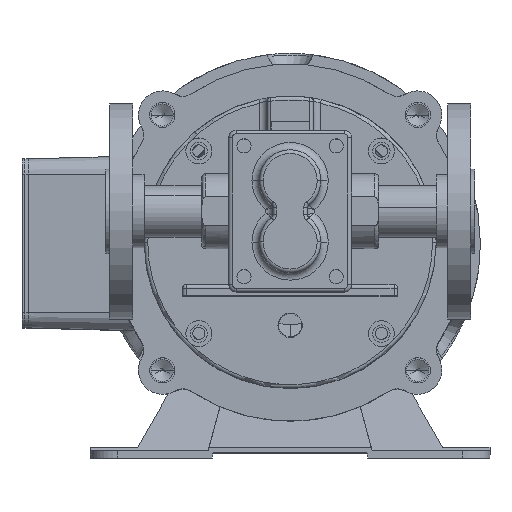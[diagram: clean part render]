
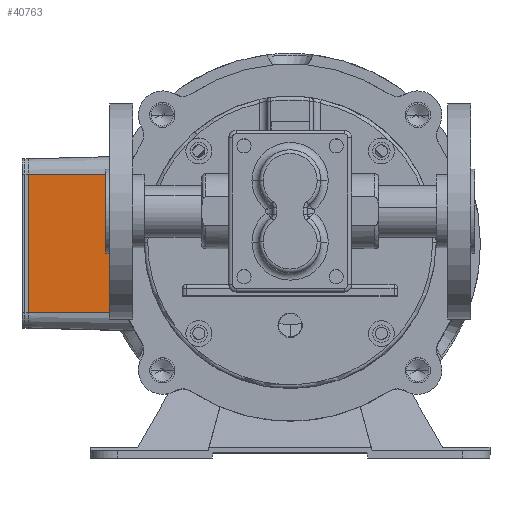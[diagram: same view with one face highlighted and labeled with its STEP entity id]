
A CAD part, top view. The second image highlights one B-rep face of the part: STEP entity #40763.
In plain terms, the highlighted planar face has unit normal (-0.026, 0, 1).
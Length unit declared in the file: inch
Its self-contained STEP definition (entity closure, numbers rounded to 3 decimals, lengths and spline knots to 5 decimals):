
#436 = ORIENTED_EDGE ( 'NONE', *, *, #43343, .T. ) ;
#1046 = VECTOR ( 'NONE', #5229, 39.37008 ) ;
#4844 = VERTEX_POINT ( 'NONE', #11791 ) ;
#5229 = DIRECTION ( 'NONE',  ( -1., 0., -0.026 ) ) ;
#6882 = CARTESIAN_POINT ( 'NONE',  ( -5.43364, -0.5928, -7.47377 ) ) ;
#7551 = AXIS2_PLACEMENT_3D ( 'NONE', #24490, #16123, #29229 ) ;
#8030 = ORIENTED_EDGE ( 'NONE', *, *, #44900, .T. ) ;
#8119 =( BOUNDED_CURVE ( )  B_SPLINE_CURVE ( 3, ( #48979, #53137, #15257, #35921 ),
 .UNSPECIFIED., .F., .T. ) 
 B_SPLINE_CURVE_WITH_KNOTS ( ( 4, 4 ),
 ( 0., 0.40776 ),
 .UNSPECIFIED. ) 
 CURVE ( )  GEOMETRIC_REPRESENTATION_ITEM ( )  RATIONAL_B_SPLINE_CURVE ( ( 1., 0.986, 0.986, 1. ) ) 
 REPRESENTATION_ITEM ( '' )  );
#9355 = CARTESIAN_POINT ( 'NONE',  ( -3.78838, -0.5928, -7.43069 ) ) ;
#9411 = LINE ( 'NONE', #26458, #1046 ) ;
#11143 = CARTESIAN_POINT ( 'NONE',  ( -5.43364, 1.6572, -7.47377 ) ) ;
#11791 = CARTESIAN_POINT ( 'NONE',  ( -3.78838, 1.6572, -7.43069 ) ) ;
#12351 = VECTOR ( 'NONE', #33087, 39.37008 ) ;
#14147 =( BOUNDED_CURVE ( )  B_SPLINE_CURVE ( 3, ( #9355, #26949, #14375, #31415 ),
 .UNSPECIFIED., .F., .T. ) 
 B_SPLINE_CURVE_WITH_KNOTS ( ( 4, 4 ),
 ( 5.87543, 6.28319 ),
 .UNSPECIFIED. ) 
 CURVE ( )  GEOMETRIC_REPRESENTATION_ITEM ( )  RATIONAL_B_SPLINE_CURVE ( ( 1., 0.986, 0.986, 1. ) ) 
 REPRESENTATION_ITEM ( '' )  );
#14375 = CARTESIAN_POINT ( 'NONE',  ( -4.02097, 0.1439, -7.43678 ) ) ;
#15222 = CARTESIAN_POINT ( 'NONE',  ( -5.43364, -0.5928, -7.47377 ) ) ;
#15257 = CARTESIAN_POINT ( 'NONE',  ( -3.94235, 1.30074, -7.43472 ) ) ;
#15597 = DIRECTION ( 'NONE',  ( 0., -1., 0. ) ) ;
#16041 = LINE ( 'NONE', #15222, #12351 ) ;
#16123 = DIRECTION ( 'NONE',  ( -0.026, 0., 1. ) ) ;
#17900 = ORIENTED_EDGE ( 'NONE', *, *, #33616, .F. ) ;
#20346 = LINE ( 'NONE', #40991, #50255 ) ;
#20623 = VERTEX_POINT ( 'NONE', #30904 ) ;
#20673 = EDGE_LOOP ( 'NONE', ( #17900, #8030, #23682, #436, #45587 ) ) ;
#23682 = ORIENTED_EDGE ( 'NONE', *, *, #46075, .T. ) ;
#24490 = CARTESIAN_POINT ( 'NONE',  ( -5.43364, 1.6572, -7.47377 ) ) ;
#25322 = FACE_OUTER_BOUND ( 'NONE', #20673, .T. ) ;
#25828 = VERTEX_POINT ( 'NONE', #6882 ) ;
#26458 = CARTESIAN_POINT ( 'NONE',  ( -5.43364, 1.6572, -7.47377 ) ) ;
#26949 = CARTESIAN_POINT ( 'NONE',  ( -3.94235, -0.23635, -7.43472 ) ) ;
#29229 = DIRECTION ( 'NONE',  ( 0., -1., 0. ) ) ;
#30904 = CARTESIAN_POINT ( 'NONE',  ( -3.78838, -0.5928, -7.43069 ) ) ;
#31415 = CARTESIAN_POINT ( 'NONE',  ( -4.02097, 0.5322, -7.43678 ) ) ;
#33087 = DIRECTION ( 'NONE',  ( -1., 0., -0.026 ) ) ;
#33616 = EDGE_CURVE ( 'NONE', #20623, #25828, #16041, .T. ) ;
#35921 = CARTESIAN_POINT ( 'NONE',  ( -3.78838, 1.6572, -7.43069 ) ) ;
#36025 = VERTEX_POINT ( 'NONE', #53910 ) ;
#37611 = PLANE ( 'NONE',  #7551 ) ;
#39077 = VERTEX_POINT ( 'NONE', #11143 ) ;
#40763 = ADVANCED_FACE ( 'NONE', ( #25322 ), #37611, .T. ) ;
#40991 = CARTESIAN_POINT ( 'NONE',  ( -5.43364, 1.6572, -7.47377 ) ) ;
#43343 = EDGE_CURVE ( 'NONE', #4844, #39077, #9411, .T. ) ;
#44900 = EDGE_CURVE ( 'NONE', #20623, #36025, #14147, .T. ) ;
#45587 = ORIENTED_EDGE ( 'NONE', *, *, #46927, .T. ) ;
#46075 = EDGE_CURVE ( 'NONE', #36025, #4844, #8119, .T. ) ;
#46927 = EDGE_CURVE ( 'NONE', #39077, #25828, #20346, .T. ) ;
#48979 = CARTESIAN_POINT ( 'NONE',  ( -4.02097, 0.5322, -7.43678 ) ) ;
#50255 = VECTOR ( 'NONE', #15597, 39.37008 ) ;
#53137 = CARTESIAN_POINT ( 'NONE',  ( -4.02097, 0.92049, -7.43678 ) ) ;
#53910 = CARTESIAN_POINT ( 'NONE',  ( -4.02097, 0.5322, -7.43678 ) ) ;
